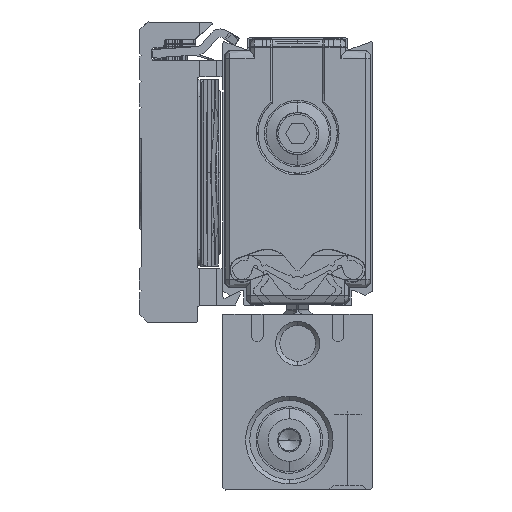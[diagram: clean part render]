
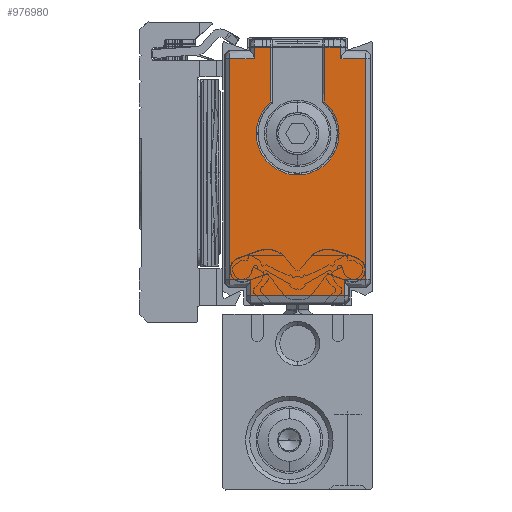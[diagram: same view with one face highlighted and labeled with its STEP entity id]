
A CAD part, left-side view. The second image highlights one B-rep face of the part: STEP entity #976980.
In plain terms, the highlighted planar face has unit normal (-1, 0, 0) as drawn and (0, 0, -1) by its records, which use the part's own axes.
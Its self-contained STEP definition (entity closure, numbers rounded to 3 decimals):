
#936140=CARTESIAN_POINT('',(24.688,30.224,-494.5));
#936150=VERTEX_POINT('',#936140);
#937200=CARTESIAN_POINT('',(31.365,35.75,-494.5));
#937210=DIRECTION('',(0.,-1.,0.));
#937220=VECTOR('',#937210,1.);
#937230=LINE('',#937200,#937220);
#937240=CARTESIAN_POINT('',(31.365,23.776,-494.5));
#937250=VERTEX_POINT('',#937240);
#937260=CARTESIAN_POINT('',(31.365,21.802,-494.5));
#937270=VERTEX_POINT('',#937260);
#937280=EDGE_CURVE('',#937250,#937270,#937230,.T.);
#944290=CARTESIAN_POINT('',(3.435,32.648,-494.5));
#944300=VERTEX_POINT('',#944290);
#944500=CARTESIAN_POINT('',(1.435,32.648,-494.5));
#944510=VERTEX_POINT('',#944500);
#944540=CARTESIAN_POINT('',(3.935,32.648,-494.5));
#944550=CARTESIAN_POINT('',(3.435,32.648,-494.5));
#944560=CARTESIAN_POINT('',(2.935,32.648,-494.5));
#944570=CARTESIAN_POINT('',(2.102,32.648,-494.5));
#944580=CARTESIAN_POINT('',(1.768,32.648,-494.5));
#944590=CARTESIAN_POINT('',(1.435,32.648,-494.5));
#944600=B_SPLINE_CURVE_WITH_KNOTS('',3,(#944540,#944550,#944560,#944570,
#944580,#944590),.UNSPECIFIED.,.F.,.F.,(4,2,4),(37.084,
38.584,39.584),.UNSPECIFIED.);
#944610=EDGE_CURVE('',#944300,#944510,#944600,.T.);
#945950=CARTESIAN_POINT('',(24.688,23.776,-494.5));
#945960=VERTEX_POINT('',#945950);
#947750=CARTESIAN_POINT('',(29.865,35.75,-494.5));
#947760=DIRECTION('',(0.,1.,0.));
#947770=VECTOR('',#947760,1.);
#947780=LINE('',#947750,#947770);
#947790=CARTESIAN_POINT('',(29.865,32.198,-494.5));
#947800=VERTEX_POINT('',#947790);
#947810=CARTESIAN_POINT('',(29.865,35.198,-494.5));
#947820=VERTEX_POINT('',#947810);
#947830=EDGE_CURVE('',#947800,#947820,#947780,.T.);
#949680=CARTESIAN_POINT('',(3.435,35.75,-494.5));
#949690=DIRECTION('',(0.,1.,0.));
#949700=VECTOR('',#949690,1.);
#949710=LINE('',#949680,#949700);
#949720=CARTESIAN_POINT('',(3.435,35.198,-494.5));
#949730=VERTEX_POINT('',#949720);
#949740=EDGE_CURVE('',#944300,#949730,#949710,.T.);
#950170=CARTESIAN_POINT('',(31.365,32.198,-494.5));
#950180=VERTEX_POINT('',#950170);
#950210=CARTESIAN_POINT('',(31.365,30.224,-494.5));
#950220=VERTEX_POINT('',#950210);
#950230=EDGE_CURVE('',#950180,#950220,#937230,.T.);
#950940=CARTESIAN_POINT('',(3.435,18.802,-494.5));
#950950=VERTEX_POINT('',#950940);
#951260=CARTESIAN_POINT('',(3.435,35.75,-494.5));
#951270=DIRECTION('',(0.,-1.,0.));
#951280=VECTOR('',#951270,1.);
#951290=LINE('',#951260,#951280);
#951300=CARTESIAN_POINT('',(3.435,21.352,-494.5));
#951310=VERTEX_POINT('',#951300);
#951320=EDGE_CURVE('',#951310,#950950,#951290,.T.);
#952170=CARTESIAN_POINT('',(1.435,21.352,-494.5));
#952180=VERTEX_POINT('',#952170);
#953650=CARTESIAN_POINT('',(3.935,21.352,-494.5));
#953660=CARTESIAN_POINT('',(3.435,21.352,-494.5));
#953670=CARTESIAN_POINT('',(2.935,21.352,-494.5));
#953680=CARTESIAN_POINT('',(2.102,21.352,-494.5));
#953690=CARTESIAN_POINT('',(1.768,21.352,-494.5));
#953700=CARTESIAN_POINT('',(1.435,21.352,-494.5));
#953710=B_SPLINE_CURVE_WITH_KNOTS('',3,(#953650,#953660,#953670,#953680,
#953690,#953700),.UNSPECIFIED.,.F.,.F.,(4,2,4),(37.084,
38.584,39.584),.UNSPECIFIED.);
#953720=EDGE_CURVE('',#951310,#952180,#953710,.T.);
#954900=CARTESIAN_POINT('',(1.435,35.75,-494.5));
#954910=DIRECTION('',(0.,1.,0.));
#954920=VECTOR('',#954910,1.);
#954930=LINE('',#954900,#954920);
#954940=EDGE_CURVE('',#952180,#944510,#954930,.T.);
#958440=CARTESIAN_POINT('',(0.15,30.224,-494.5));
#958450=DIRECTION('',(1.,0.,0.));
#958460=VECTOR('',#958450,1.);
#958470=LINE('',#958440,#958460);
#958480=EDGE_CURVE('',#936150,#950220,#958470,.T.);
#962220=CARTESIAN_POINT('',(29.865,21.802,-494.5));
#962230=VERTEX_POINT('',#962220);
#962280=CARTESIAN_POINT('',(29.365,21.802,-494.5));
#962290=CARTESIAN_POINT('',(29.782,21.802,-494.5));
#962300=CARTESIAN_POINT('',(30.198,21.802,-494.5));
#962310=CARTESIAN_POINT('',(30.865,21.802,-494.5));
#962320=CARTESIAN_POINT('',(31.115,21.802,-494.5));
#962330=CARTESIAN_POINT('',(31.365,21.802,-494.5));
#962340=B_SPLINE_CURVE_WITH_KNOTS('',3,(#962280,#962290,#962300,#962310,
#962320,#962330),.UNSPECIFIED.,.F.,.F.,(4,2,4),(37.587,
38.837,39.587),.UNSPECIFIED.);
#962350=EDGE_CURVE('',#962230,#937270,#962340,.T.);
#962680=CARTESIAN_POINT('',(29.365,32.198,-494.5));
#962690=CARTESIAN_POINT('',(29.782,32.198,-494.5));
#962700=CARTESIAN_POINT('',(30.198,32.198,-494.5));
#962710=CARTESIAN_POINT('',(30.865,32.198,-494.5));
#962720=CARTESIAN_POINT('',(31.115,32.198,-494.5));
#962730=CARTESIAN_POINT('',(31.365,32.198,-494.5));
#962740=B_SPLINE_CURVE_WITH_KNOTS('',3,(#962680,#962690,#962700,#962710,
#962720,#962730),.UNSPECIFIED.,.F.,.F.,(4,2,4),(37.587,
38.837,39.587),.UNSPECIFIED.);
#962750=EDGE_CURVE('',#947800,#950180,#962740,.T.);
#963740=CARTESIAN_POINT('',(29.865,18.802,-494.5));
#963750=VERTEX_POINT('',#963740);
#963780=CARTESIAN_POINT('',(3.435,18.802,-494.5));
#963790=CARTESIAN_POINT('',(7.84,18.802,-494.5));
#963800=CARTESIAN_POINT('',(12.245,18.802,-494.5));
#963810=CARTESIAN_POINT('',(21.055,18.802,-494.5));
#963820=CARTESIAN_POINT('',(25.46,18.802,-494.5));
#963830=CARTESIAN_POINT('',(29.865,18.802,-494.5));
#963840=B_SPLINE_CURVE_WITH_KNOTS('',3,(#963780,#963790,#963800,#963810,
#963820,#963830),.UNSPECIFIED.,.F.,.F.,(4,2,4),(24.334,
37.549,50.764),.UNSPECIFIED.);
#963850=EDGE_CURVE('',#950950,#963750,#963840,.T.);
#970250=CARTESIAN_POINT('',(29.865,35.75,-494.5));
#970260=DIRECTION('',(0.,-1.,0.));
#970270=VECTOR('',#970260,1.);
#970280=LINE('',#970250,#970270);
#970290=EDGE_CURVE('',#962230,#963750,#970280,.T.);
#971480=CARTESIAN_POINT('',(3.435,35.198,-494.5));
#971490=CARTESIAN_POINT('',(7.84,35.198,-494.5));
#971500=CARTESIAN_POINT('',(12.245,35.198,-494.5));
#971510=CARTESIAN_POINT('',(21.055,35.198,-494.5));
#971520=CARTESIAN_POINT('',(25.46,35.198,-494.5));
#971530=CARTESIAN_POINT('',(29.865,35.198,-494.5));
#971540=B_SPLINE_CURVE_WITH_KNOTS('',3,(#971480,#971490,#971500,#971510,
#971520,#971530),.UNSPECIFIED.,.F.,.F.,(4,2,4),(24.308,
37.523,50.738),.UNSPECIFIED.);
#971550=EDGE_CURVE('',#949730,#947820,#971540,.T.);
#976470=CARTESIAN_POINT('',(20.9,27.,-494.5));
#976480=DIRECTION('',(0.,0.,-1.));
#976490=DIRECTION('',(0.,1.,0.));
#976500=AXIS2_PLACEMENT_3D('',#976470,#976480,#976490);
#976510=CIRCLE('',#976500,4.974);
#976520=EDGE_CURVE('',#945960,#936150,#976510,.T.);
#976700=CARTESIAN_POINT('',(16.65,27.,-494.5));
#976710=DIRECTION('',(0.,0.,1.));
#976720=DIRECTION('',(0.,1.,0.));
#976730=AXIS2_PLACEMENT_3D('',#976700,#976710,#976720);
#976740=PLANE('',#976730);
#976750=ORIENTED_EDGE('',*,*,#976520,.F.);
#976760=ORIENTED_EDGE('',*,*,#958480,.F.);
#976770=ORIENTED_EDGE('',*,*,#950230,.T.);
#976780=ORIENTED_EDGE('',*,*,#962750,.T.);
#976790=ORIENTED_EDGE('',*,*,#947830,.F.);
#976800=ORIENTED_EDGE('',*,*,#971550,.T.);
#976810=ORIENTED_EDGE('',*,*,#949740,.T.);
#976820=ORIENTED_EDGE('',*,*,#944610,.F.);
#976830=ORIENTED_EDGE('',*,*,#954940,.T.);
#976840=ORIENTED_EDGE('',*,*,#953720,.T.);
#976850=ORIENTED_EDGE('',*,*,#951320,.F.);
#976860=ORIENTED_EDGE('',*,*,#963850,.F.);
#976870=ORIENTED_EDGE('',*,*,#970290,.T.);
#976880=ORIENTED_EDGE('',*,*,#962350,.F.);
#976890=ORIENTED_EDGE('',*,*,#937280,.T.);
#976900=CARTESIAN_POINT('',(0.15,23.776,-494.5));
#976910=DIRECTION('',(-1.,0.,0.));
#976920=VECTOR('',#976910,1.);
#976930=LINE('',#976900,#976920);
#976940=EDGE_CURVE('',#937250,#945960,#976930,.T.);
#976950=ORIENTED_EDGE('',*,*,#976940,.F.);
#976960=EDGE_LOOP('',(#976950,#976890,#976880,#976870,#976860,#976850,
#976840,#976830,#976820,#976810,#976800,#976790,#976780,#976770,#976760,
#976750));
#976970=FACE_OUTER_BOUND('',#976960,.T.);
#976980=ADVANCED_FACE('',(#976970),#976740,.F.);
